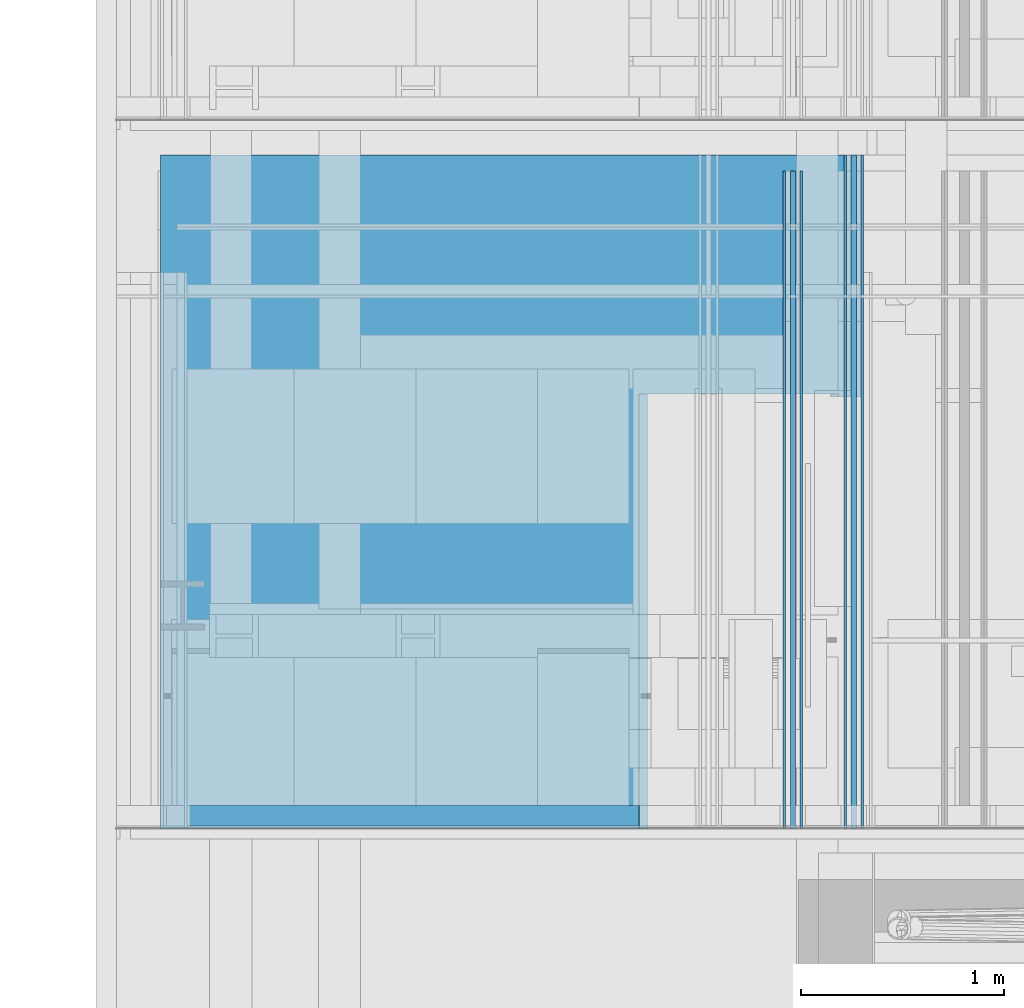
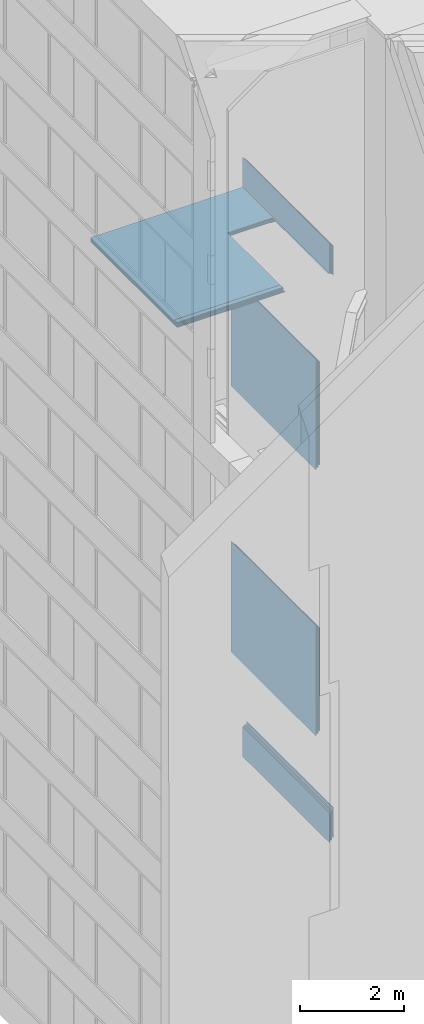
# One storey, part 57 of 583: 17 building element parts, 3 openings, 5 elements without a shape of their own.
"""IFC2X3 building model written with IfcOpenShell, lengths in metres."""

from ifc_helpers import new_model, entity, si_unit, converted_unit, derived_unit, money_unit, direction, frame, frame_2d, origin_with_axes, place, context, subcontext, project, spatial, polyline, rectangle, outline, extrude, material, type_object, element, aggregate, save


model = new_model("IFC2X3")

# Units and contexts
model_context = context("Model", 3, precision=1e-05, world=origin_with_axes(), true_north=direction((0.0, 1.0)))
body_context = subcontext(model_context, "Body", "Model", "MODEL_VIEW", scale=1.0)
ifc_project = project(units=[si_unit("LENGTHUNIT", "METRE"), si_unit("AREAUNIT", "SQUARE_METRE"), si_unit("VOLUMEUNIT", "CUBIC_METRE"), si_unit("ABSORBEDDOSEUNIT", "GRAY"), si_unit("AMOUNTOFSUBSTANCEUNIT", "MOLE"), si_unit("DOSEEQUIVALENTUNIT", "SIEVERT"), si_unit("ELECTRICCAPACITANCEUNIT", "FARAD"), si_unit("ELECTRICCHARGEUNIT", "COULOMB"), si_unit("ELECTRICCONDUCTANCEUNIT", "SIEMENS"), si_unit("ELECTRICCURRENTUNIT", "AMPERE"), si_unit("ELECTRICRESISTANCEUNIT", "OHM"), si_unit("ELECTRICVOLTAGEUNIT", "VOLT"), si_unit("ENERGYUNIT", "JOULE"), si_unit("FORCEUNIT", "NEWTON"), si_unit("FREQUENCYUNIT", "HERTZ"), si_unit("ILLUMINANCEUNIT", "LUX"), si_unit("INDUCTANCEUNIT", "HENRY"), si_unit("LUMINOUSFLUXUNIT", "LUMEN"), si_unit("LUMINOUSINTENSITYUNIT", "CANDELA"), si_unit("MAGNETICFLUXDENSITYUNIT", "TESLA"), si_unit("MAGNETICFLUXUNIT", "WEBER"), si_unit("MASSUNIT", "GRAM"), converted_unit("PLANEANGLEUNIT", "degree", entity("IfcReal", 0.0174532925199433), si_unit("PLANEANGLEUNIT", "RADIAN"), dimensions=[0, 0, 0, 0, 0, 0, 0]), si_unit("POWERUNIT", "WATT"), si_unit("PRESSUREUNIT", "PASCAL"), si_unit("RADIOACTIVITYUNIT", "BECQUEREL"), si_unit("SOLIDANGLEUNIT", "STERADIAN"), si_unit("THERMODYNAMICTEMPERATUREUNIT", "KELVIN"), si_unit("TIMEUNIT", "SECOND"), derived_unit("ACCELERATIONUNIT", [(si_unit("LENGTHUNIT", "METRE"), 1), (si_unit("TIMEUNIT", "SECOND"), -2)]), derived_unit("ANGULARVELOCITYUNIT", [(converted_unit("PLANEANGLEUNIT", "degree", entity("IfcReal", 0.0174532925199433), si_unit("PLANEANGLEUNIT", "RADIAN"), dimensions=[0, 0, 0, 0, 0, 0, 0]), 1), (si_unit("TIMEUNIT", "SECOND"), -1)]), derived_unit("CURVATUREUNIT", [(converted_unit("PLANEANGLEUNIT", "degree", entity("IfcReal", 0.0174532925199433), si_unit("PLANEANGLEUNIT", "RADIAN"), dimensions=[0, 0, 0, 0, 0, 0, 0]), 1), (si_unit("LENGTHUNIT", "METRE"), -1)]), derived_unit("DYNAMICVISCOSITYUNIT", [(si_unit("PRESSUREUNIT", "PASCAL"), 1), (si_unit("TIMEUNIT", "SECOND"), 1)]), derived_unit("HEATFLUXDENSITYUNIT", [(si_unit("POWERUNIT", "WATT"), 1), (si_unit("LENGTHUNIT", "METRE"), -2)]), derived_unit("HEATINGVALUEUNIT", [(si_unit("ENERGYUNIT", "JOULE"), 1), (si_unit("MASSUNIT", "GRAM"), -1)]), derived_unit("INTEGERCOUNTRATEUNIT", [(si_unit("TIMEUNIT", "SECOND"), -1)]), derived_unit("IONCONCENTRATIONUNIT", [(si_unit("MASSUNIT", "GRAM"), 1), (si_unit("VOLUMEUNIT", "CUBIC_METRE"), -1)]), derived_unit("ISOTHERMALMOISTURECAPACITYUNIT", [(si_unit("VOLUMEUNIT", "CUBIC_METRE"), 1), (si_unit("MASSUNIT", "GRAM"), -1)]), derived_unit("KINEMATICVISCOSITYUNIT", [(si_unit("AREAUNIT", "SQUARE_METRE"), 1), (si_unit("TIMEUNIT", "SECOND"), -1)]), derived_unit("LINEARFORCEUNIT", [(si_unit("FORCEUNIT", "NEWTON"), 1), (si_unit("LENGTHUNIT", "METRE"), -1)]), derived_unit("LINEARMOMENTUNIT", [(si_unit("FORCEUNIT", "NEWTON"), 1), (si_unit("LENGTHUNIT", "METRE"), -1)]), derived_unit("LINEARSTIFFNESSUNIT", [(si_unit("FORCEUNIT", "NEWTON"), 1), (si_unit("LENGTHUNIT", "METRE"), -1)]), derived_unit("LINEARVELOCITYUNIT", [(si_unit("LENGTHUNIT", "METRE"), 1), (si_unit("TIMEUNIT", "SECOND"), -1)]), derived_unit("LUMINOUSINTENSITYDISTRIBUTIONUNIT", [(si_unit("LUMINOUSINTENSITYUNIT", "CANDELA"), 1), (si_unit("LUMINOUSFLUXUNIT", "LUMEN"), -1)]), derived_unit("MASSDENSITYUNIT", [(si_unit("MASSUNIT", "GRAM"), 1), (si_unit("VOLUMEUNIT", "CUBIC_METRE"), -1)]), derived_unit("MASSFLOWRATEUNIT", [(si_unit("MASSUNIT", "GRAM"), 1), (si_unit("TIMEUNIT", "SECOND"), -1)]), derived_unit("MASSPERLENGTHUNIT", [(si_unit("MASSUNIT", "GRAM"), 1), (si_unit("LENGTHUNIT", "METRE"), -1)]), derived_unit("MODULUSOFELASTICITYUNIT", [(si_unit("FORCEUNIT", "NEWTON"), 1), (si_unit("AREAUNIT", "SQUARE_METRE"), -1)]), derived_unit("MODULUSOFLINEARSUBGRADEREACTIONUNIT", [(si_unit("FORCEUNIT", "NEWTON"), 1), (si_unit("LENGTHUNIT", "METRE"), -2)]), derived_unit("MODULUSOFROTATIONALSUBGRADEREACTIONUNIT", [(si_unit("FORCEUNIT", "NEWTON"), 1), (si_unit("LENGTHUNIT", "METRE"), 1)]), derived_unit("MODULUSOFSUBGRADEREACTIONUNIT", [(si_unit("FORCEUNIT", "NEWTON"), 1), (si_unit("VOLUMEUNIT", "CUBIC_METRE"), -1)]), derived_unit("MOISTUREDIFFUSIVITYUNIT", [(si_unit("VOLUMEUNIT", "CUBIC_METRE"), 1), (si_unit("TIMEUNIT", "SECOND"), -1)]), derived_unit("MOLECULARWEIGHTUNIT", [(si_unit("MASSUNIT", "GRAM"), 1), (si_unit("AMOUNTOFSUBSTANCEUNIT", "MOLE"), -1)]), derived_unit("PLANARFORCEUNIT", [(si_unit("FORCEUNIT", "NEWTON"), 1), (si_unit("LENGTHUNIT", "METRE"), -2)]), derived_unit("ROTATIONALFREQUENCYUNIT", [(si_unit("TIMEUNIT", "SECOND"), -1)]), derived_unit("ROTATIONALMASSUNIT", [(si_unit("MASSUNIT", "GRAM"), 1), (si_unit("LENGTHUNIT", "METRE"), 2)]), derived_unit("ROTATIONALSTIFFNESSUNIT", [(si_unit("FORCEUNIT", "NEWTON"), 1), (si_unit("LENGTHUNIT", "METRE"), 1), (converted_unit("PLANEANGLEUNIT", "degree", entity("IfcReal", 0.0174532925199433), si_unit("PLANEANGLEUNIT", "RADIAN"), dimensions=[0, 0, 0, 0, 0, 0, 0]), -1)]), derived_unit("SECTIONAREAINTEGRALUNIT", [(si_unit("LENGTHUNIT", "METRE"), 5)]), derived_unit("SECTIONMODULUSUNIT", [(si_unit("LENGTHUNIT", "METRE"), 3)]), derived_unit("SHEARMODULUSUNIT", [(si_unit("FORCEUNIT", "NEWTON"), 1), (si_unit("AREAUNIT", "SQUARE_METRE"), -1)]), derived_unit("SOUNDPOWERUNIT", [(si_unit("ENERGYUNIT", "JOULE"), 1), (si_unit("TIMEUNIT", "SECOND"), -1)]), derived_unit("SPECIFICHEATCAPACITYUNIT", [(si_unit("FORCEUNIT", "NEWTON"), 1), (si_unit("MASSUNIT", "GRAM"), -1), (si_unit("THERMODYNAMICTEMPERATUREUNIT", "KELVIN"), -1)]), derived_unit("TEMPERATUREGRADIENTUNIT", [(si_unit("THERMODYNAMICTEMPERATUREUNIT", "KELVIN"), 1), (si_unit("LENGTHUNIT", "METRE"), -1)]), derived_unit("THERMALADMITTANCEUNIT", [(si_unit("POWERUNIT", "WATT"), 1), (si_unit("AREAUNIT", "SQUARE_METRE"), -1), (si_unit("THERMODYNAMICTEMPERATUREUNIT", "KELVIN"), -1)]), derived_unit("THERMALCONDUCTANCEUNIT", [(si_unit("POWERUNIT", "WATT"), 1), (si_unit("LENGTHUNIT", "METRE"), -1), (si_unit("THERMODYNAMICTEMPERATUREUNIT", "KELVIN"), -1)]), derived_unit("THERMALEXPANSIONCOEFFICIENTUNIT", [(si_unit("THERMODYNAMICTEMPERATUREUNIT", "KELVIN"), -1)]), derived_unit("THERMALRESISTANCEUNIT", [(si_unit("AREAUNIT", "SQUARE_METRE"), 1), (si_unit("POWERUNIT", "WATT"), -1)]), derived_unit("THERMALTRANSMITTANCEUNIT", [(si_unit("POWERUNIT", "WATT"), 1), (si_unit("AREAUNIT", "SQUARE_METRE"), -1), (si_unit("THERMODYNAMICTEMPERATUREUNIT", "KELVIN"), -1)]), derived_unit("TORQUEUNIT", [(si_unit("FORCEUNIT", "NEWTON"), 1), (si_unit("LENGTHUNIT", "METRE"), 1)]), derived_unit("VAPORPERMEABILITYUNIT", [(si_unit("MASSUNIT", "GRAM"), 1), (si_unit("TIMEUNIT", "SECOND"), -1)]), derived_unit("VOLUMETRICFLOWRATEUNIT", [(si_unit("VOLUMEUNIT", "CUBIC_METRE"), 1), (si_unit("TIMEUNIT", "SECOND"), -1)]), derived_unit("WARPINGCONSTANTUNIT", [(si_unit("LENGTHUNIT", "METRE"), 6)]), derived_unit("WARPINGMOMENTUNIT", [(si_unit("FORCEUNIT", "NEWTON"), 1), (si_unit("LENGTHUNIT", "METRE"), 2)]), money_unit("GBP")], contexts=[model_context])

# Site, building, storey
site_placement = place(None, origin_with_axes())
site = spatial("IfcSite", under=ifc_project, at=site_placement, Name="Site", CompositionType="ELEMENT")
building_placement = place(site_placement, origin_with_axes())
building = spatial("IfcBuilding", under=site, at=building_placement, Name="Building01", CompositionType="ELEMENT")
storey_placement = place(building_placement, frame((0.0, 0.0, 20.78), z_axis=(0.0, 0.0, 1.0), x_axis=(1.0, 0.0, 0.0)))
storey = spatial("IfcBuildingStorey", under=building, at=storey_placement, Name="RL", CompositionType="ELEMENT", Elevation=20.78)

# Wall, building element parts
wall_type = type_object("IfcWallType", Name="SHE_A-Walls_Type05a_Partition_95mm_tall", PredefinedType="NOTDEFINED")
wall_1_placement = place(storey_placement, frame((3.72, 5.15, -13.545), z_axis=(0.0, 1.0, 0.0), x_axis=(0.0, 0.0, -1.0)))
wall_1 = element("IfcWall", 1, at=wall_1_placement, inside=storey, type_object=wall_type, Name="5A", ObjectType="SHE_A-Walls_Type05a_Partition_95mm_tall")
ifc_material_1 = material(Name="A_BSUK_Insulation")
placement_1 = place(wall_1_placement, origin_with_axes())
building_element_part_1 = element("IfcBuildingElementPart", 2, at=placement_1, material=ifc_material_1, Name="1", context=body_context, shape_type="SweptSolid", body=[
    extrude(outline(polyline([(0.7, 0.0), (0.0, 0.0), (0.0, -0.025), (0.675, -0.025), (0.7, 0.0)])), origin_with_axes(), (0.0, 0.0, 1.0), 3.32),
])
ifc_material_2 = material(Name="A_BSUK_WallInternal_Finishes_Plasterboard")
building_element_part_2 = element("IfcBuildingElementPart", 3, at=placement_1, material=ifc_material_2, Name="4", context=body_context, shape_type="SweptSolid", body=[
    extrude(outline(polyline([(0.735, 0.035), (0.035, 0.035), (0.023, 0.023), (0.723, 0.023), (0.735, 0.035)])), origin_with_axes(), (0.0, 0.0, 1.0), 3.32),
])
building_element_part_3 = element("IfcBuildingElementPart", 4, at=placement_1, material=ifc_material_2, Name="5", context=body_context, shape_type="SweptSolid", body=[
    extrude(outline(polyline([(0.652, -0.048), (-0.048, -0.048), (-0.06, -0.06), (0.64, -0.06), (0.652, -0.048)])), origin_with_axes(), (0.0, 0.0, 1.0), 3.32),
])
aggregate(wall_1, [building_element_part_1, building_element_part_2, building_element_part_3])

# Wall, openings, building element parts
wall_2_placement = place(storey_placement, frame((3.745, 5.15, -1.03), z_axis=(0.0, 1.0, 0.0), x_axis=(-1.0, 0.0, 0.0)))
wall_2 = element("IfcWall", 5, at=wall_2_placement, inside=storey, type_object=wall_type, Name="5A", ObjectType="SHE_A-Walls_Type05a_Partition_95mm_tall")
opening_1_placement = place(wall_2_placement, frame((-0.490781, -0.035, -0.015), z_axis=(0.0, 0.0, 1.0), x_axis=(1.0, 0.0, 0.0)))
element("IfcOpeningElement", 6, at=opening_1_placement, cuts=wall_2, Name="Opening", ObjectType="Opening", context=body_context, shape_type="SweptSolid", body=[
    extrude(rectangle(XDim=2.142, YDim=1.084, at=frame_2d((-0.542, 1.071), x_axis=(0.0, -1.0))), frame((0.0, -0.09, 0.0), z_axis=(0.0, 1.0, 0.0), x_axis=(-1.0, 0.0, 0.0)), (0.0, 0.0, 1.0), 0.18),
])
opening_2_placement = place(wall_2_placement, frame((0.129, 0.079, 0.0), z_axis=(0.0, 0.0, 1.0), x_axis=(1.0, 0.0, 0.0)))
element("IfcOpeningElement", 7, at=opening_2_placement, cuts=wall_2, Name="Opening", ObjectType="Opening", context=body_context, shape_type="SweptSolid", body=[
    extrude(rectangle(XDim=2.142, YDim=0.9, at=frame_2d((-0.45, 1.071), x_axis=(0.0, -1.0))), frame((0.0, -0.1185, 0.0), z_axis=(0.0, 1.0, 0.0), x_axis=(-1.0, 0.0, 0.0)), (0.0, 0.0, 1.0), 0.237),
])
opening_3_placement = place(wall_2_placement, frame((0.087, 0.06, 0.0), z_axis=(0.0, 0.0, 1.0), x_axis=(1.0, 0.0, 0.0)))
element("IfcOpeningElement", 8, at=opening_3_placement, cuts=wall_2, Name="Opening", ObjectType="Opening", context=body_context, shape_type="SweptSolid", body=[
    extrude(rectangle(XDim=2.142, YDim=0.984, at=frame_2d((-0.492, 1.071), x_axis=(0.0, -1.0))), frame((0.0, -0.09, 0.0), z_axis=(0.0, 1.0, 0.0), x_axis=(-1.0, 0.0, 0.0)), (0.0, 0.0, 1.0), 0.18),
])
placement_2 = place(wall_2_placement, origin_with_axes())
building_element_part_4 = element("IfcBuildingElementPart", 9, at=placement_2, material=ifc_material_1, Name="1", context=body_context, shape_type="SweptSolid", body=[
    extrude(rectangle(XDim=3.427, YDim=0.025, at=frame_2d((1.7135, 0.0125), x_axis=(-1.0, 0.0))), origin_with_axes(), (0.0, 0.0, 1.0), 3.32),
])
ifc_material_3 = material(Name="A_BSUK_Walls_Timber")
building_element_part_5 = element("IfcBuildingElementPart", 10, at=placement_2, material=ifc_material_3, Name="2", context=body_context, shape_type="SweptSolid", body=[
    extrude(rectangle(XDim=2.344, YDim=0.015, at=frame_2d((2.24, 0.0675), x_axis=(-1.0, 0.0))), frame((0.0, 0.0, 0.015), z_axis=(0.0, 0.0, 1.0), x_axis=(1.0, 0.0, 0.0)), (0.0, 0.0, 1.0), 0.1),
])
building_element_part_6 = element("IfcBuildingElementPart", 11, at=placement_2, material=ifc_material_3, Name="3", context=body_context, shape_type="SweptSolid", body=[
    extrude(rectangle(XDim=2.344, YDim=0.015, at=frame_2d((2.24, -0.0425), x_axis=(-1.0, 0.0))), frame((0.0, 0.0, 0.015), z_axis=(0.0, 0.0, 1.0), x_axis=(1.0, 0.0, 0.0)), (0.0, 0.0, 1.0), 0.1),
])
building_element_part_7 = element("IfcBuildingElementPart", 12, at=placement_2, material=ifc_material_2, Name="4", context=body_context, shape_type="SweptSolid", body=[
    extrude(outline(polyline([(3.427, 0.06), (0.06, 0.06), (0.048, 0.048), (3.427, 0.048), (3.427, 0.06)])), origin_with_axes(), (0.0, 0.0, 1.0), 3.32),
])
building_element_part_8 = element("IfcBuildingElementPart", 13, at=placement_2, material=ifc_material_2, Name="5", context=body_context, shape_type="SweptSolid", body=[
    extrude(outline(polyline([(3.427, -0.023), (-0.023, -0.023), (-0.035, -0.035), (3.427, -0.035), (3.427, -0.023)])), origin_with_axes(), (0.0, 0.0, 1.0), 3.32),
])
aggregate(wall_2, [building_element_part_4, building_element_part_5, building_element_part_6, building_element_part_7, building_element_part_8])

# Wall, building element parts
wall_3_placement = place(storey_placement, frame((3.72, 5.15, -1.005), z_axis=(0.0, 1.0, 0.0), x_axis=(0.0, 0.0, 1.0)))
wall_3 = element("IfcWall", 14, at=wall_3_placement, inside=storey, type_object=wall_type, Name="5A", ObjectType="SHE_A-Walls_Type05a_Partition_95mm_tall")
placement_3 = place(wall_3_placement, origin_with_axes())
building_element_part_9 = element("IfcBuildingElementPart", 15, at=placement_3, material=ifc_material_1, Name="1", context=body_context, shape_type="SweptSolid", body=[
    extrude(outline(polyline([(0.675, 0.025), (0.0, 0.025), (0.0, 0.0), (0.7, 0.0), (0.675, 0.025)])), origin_with_axes(), (0.0, 0.0, 1.0), 3.32),
])
building_element_part_10 = element("IfcBuildingElementPart", 16, at=placement_3, material=ifc_material_2, Name="4", context=body_context, shape_type="SweptSolid", body=[
    extrude(outline(polyline([(0.723, -0.023), (0.023, -0.023), (0.035, -0.035), (0.735, -0.035), (0.723, -0.023)])), origin_with_axes(), (0.0, 0.0, 1.0), 3.32),
])
building_element_part_11 = element("IfcBuildingElementPart", 17, at=placement_3, material=ifc_material_2, Name="5", context=body_context, shape_type="SweptSolid", body=[
    extrude(outline(polyline([(0.64, 0.06), (-0.06, 0.06), (-0.048, 0.048), (0.652, 0.048), (0.64, 0.06)])), origin_with_axes(), (0.0, 0.0, 1.0), 3.32),
])
aggregate(wall_3, [building_element_part_9, building_element_part_10, building_element_part_11])

wall_4_placement = place(storey_placement, frame((3.42, 5.15, -2.9125), z_axis=(0.0, 1.0, 0.0), x_axis=(0.0, 0.0, -1.0)))
wall_4 = element("IfcWall", 18, at=wall_4_placement, inside=storey, type_object=wall_type, Name="5A", ObjectType="SHE_A-Walls_Type05a_Partition_95mm_tall")
placement_4 = place(wall_4_placement, origin_with_axes())
building_element_part_12 = element("IfcBuildingElementPart", 19, at=placement_4, material=ifc_material_1, Name="1", context=body_context, shape_type="SweptSolid", body=[
    extrude(outline(polyline([(2.52, 0.0), (0.0, 0.0), (0.025, -0.025), (2.495, -0.025), (2.52, 0.0)])), origin_with_axes(), (0.0, 0.0, 1.0), 3.24),
])
building_element_part_13 = element("IfcBuildingElementPart", 20, at=placement_4, material=ifc_material_2, Name="4", context=body_context, shape_type="SweptSolid", body=[
    extrude(outline(polyline([(2.555, 0.035), (-0.035, 0.035), (-0.023, 0.023), (2.543, 0.023), (2.555, 0.035)])), origin_with_axes(), (0.0, 0.0, 1.0), 3.24),
])
building_element_part_14 = element("IfcBuildingElementPart", 21, at=placement_4, material=ifc_material_2, Name="5", context=body_context, shape_type="SweptSolid", body=[
    extrude(outline(polyline([(2.472, -0.048), (0.048, -0.048), (0.06, -0.06), (2.46, -0.06), (2.472, -0.048)])), origin_with_axes(), (0.0, 0.0, 1.0), 3.24),
])
aggregate(wall_4, [building_element_part_12, building_element_part_13, building_element_part_14])

wall_5_placement = place(storey_placement, frame((3.42, 5.15, -11.647464), z_axis=(0.0, 1.0, 0.0), x_axis=(0.0, 0.0, -1.0)))
wall_5 = element("IfcWall", 22, at=wall_5_placement, inside=storey, type_object=wall_type, Name="5A", ObjectType="SHE_A-Walls_Type05a_Partition_95mm_tall")
placement_5 = place(wall_5_placement, origin_with_axes())
building_element_part_15 = element("IfcBuildingElementPart", 23, at=placement_5, material=ifc_material_1, Name="1", context=body_context, shape_type="SweptSolid", body=[
    extrude(outline(polyline([(-2.495, -0.025), (-0.025, -0.025), (0.0, 0.0), (-2.52, 0.0), (-2.495, -0.025)])), origin_with_axes(), (0.0, 0.0, 1.0), 3.24),
])
building_element_part_16 = element("IfcBuildingElementPart", 24, at=placement_5, material=ifc_material_2, Name="4", context=body_context, shape_type="SweptSolid", body=[
    extrude(outline(polyline([(-2.543, 0.023), (0.023, 0.023), (0.035, 0.035), (-2.555, 0.035), (-2.543, 0.023)])), origin_with_axes(), (0.0, 0.0, 1.0), 3.24),
])
building_element_part_17 = element("IfcBuildingElementPart", 25, at=placement_5, material=ifc_material_2, Name="5", context=body_context, shape_type="SweptSolid", body=[
    extrude(outline(polyline([(-2.46, -0.06), (-0.06, -0.06), (-0.048, -0.048), (-2.472, -0.048), (-2.46, -0.06)])), origin_with_axes(), (0.0, 0.0, 1.0), 3.24),
])
aggregate(wall_5, [building_element_part_15, building_element_part_16, building_element_part_17])

save(model, "model.ifc")
